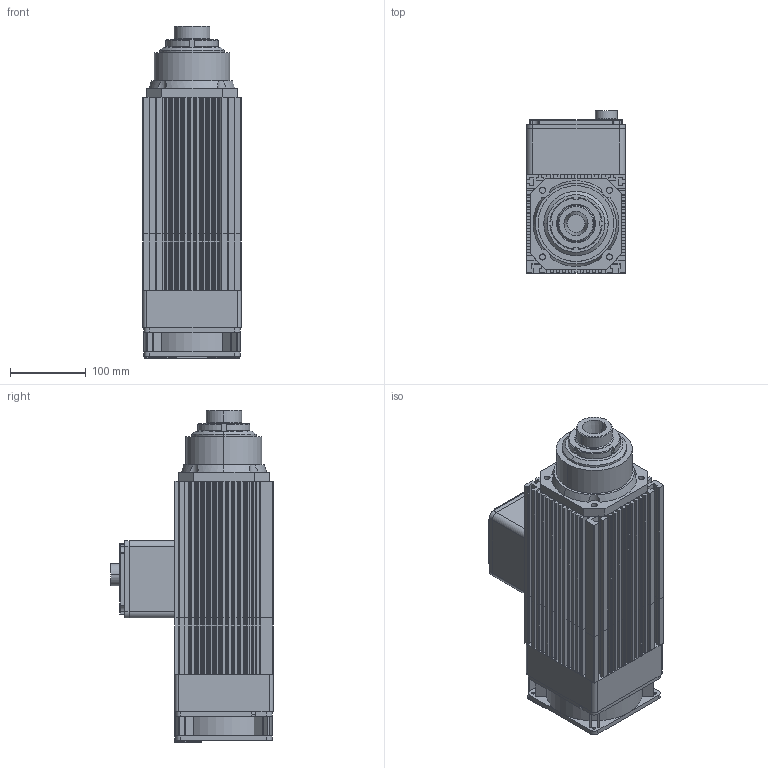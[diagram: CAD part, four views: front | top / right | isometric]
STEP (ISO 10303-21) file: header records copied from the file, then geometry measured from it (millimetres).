
FILE_DESCRIPTION (( 'STEP AP203' ), '1' );
FILE_NAME ('ARFM.4T-S TAKIM DEÐÝÞTÝRMELÝ KARE FANLI.STEP', '2019-11-27T09:06:51', ( '' ), ( '' ), 'SwSTEP 2.0', 'SolidWorks 2014', '' );
FILE_SCHEMA (( 'CONFIG_CONTROL_DESIGN' ));
Length unit declared in the file: millimetre
Products named in the file (15): Arfm.4T Takým Deðiþtirmeli Piston Gövdesi; Fan_5212NM_ebm-papst_5212NM_ebm-papst; ARFM.4T-S TAKIM DEÐÝÞTÝRMELÝ KARE FANLI; Arfm.4T Takým Deðiþtirmeli Ön Toz Kapak; Arfm.4T Takým Deðiþtirmeli Klemens Kutusu Kapaðý; Arfm.4T Kare Fan Tutma Parçasý; start butonu; Arfm.4T Takým Deðiþtirmeli Ön Kapak; 5212NM_ebm-papst_5212NM_ebm-papst; Arfm.4T Takým Deðiþtirmeli Ön Toz Kapak Somunu; Fan-House_5212NM_ebm-papst_5212NM_ebm-papst; Arfm.4T-S Takým Deðiþtirmeli Gövdesi; Arfm.4T Kare Fan Tas Kapak 127''lik; Arfm.4T Takým Deðiþtirmeli Klemens Kutusu; Arfm.4T Takým Deðiþtirmeli Rotor Mili
Assembly tree (14 placements, depth 3):
  ARFM.4T-S TAKIM DEÐÝÞTÝRMELÝ KARE FANLI
    Arfm.4T Takým Deðiþtirmeli Piston Gövdesi
    Arfm.4T Takým Deðiþtirmeli Ön Kapak
    Arfm.4T Kare Fan Tas Kapak 127''lik
    Arfm.4T Takým Deðiþtirmeli Ön Toz Kapak
    Arfm.4T Takým Deðiþtirmeli Ön Toz Kapak Somunu
    Arfm.4T Takým Deðiþtirmeli Rotor Mili
    Arfm.4T Kare Fan Tutma Parçasý
    5212NM_ebm-papst_5212NM_ebm-papst
      Fan-House_5212NM_ebm-papst_5212NM_ebm-papst
      Fan_5212NM_ebm-papst_5212NM_ebm-papst
    Arfm.4T Takým Deðiþtirmeli Klemens Kutusu
    Arfm.4T Takým Deðiþtirmeli Klemens Kutusu Kapaðý
    start butonu
    Arfm.4T-S Takým Deðiþtirmeli Gövdesi
Bounding box: 130 x 214 x 437.5 mm (x, y, z)
Volume: 6324075.9 mm3; surface area: 786708.3 mm2
Topology: 15 solids, 15 shells, 1475 faces, 4127 edges, 2733 vertices
Faces by surface type: cylinder 747, plane 675, torus 22, cone 21, bspline 10
Entity records: 50304 total; most frequent: CARTESIAN_POINT 9395, DIRECTION 8537, ORIENTED_EDGE 8254, EDGE_CURVE 4127, AXIS2_PLACEMENT_3D 3061, VERTEX_POINT 2733, LINE 2415, VECTOR 2415
